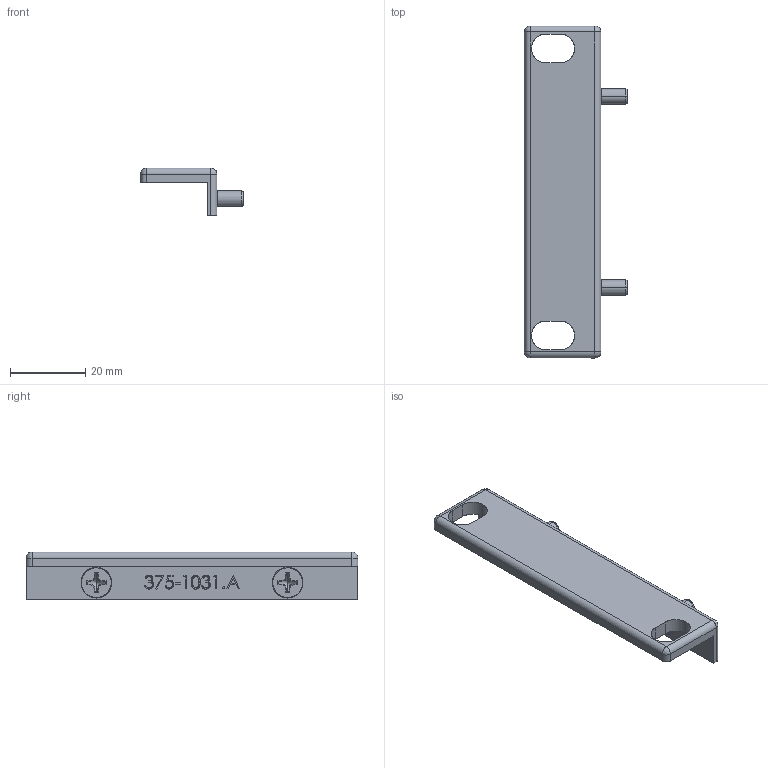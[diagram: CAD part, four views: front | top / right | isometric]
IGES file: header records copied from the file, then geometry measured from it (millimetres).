
Start section: SolidWorks IGES file using analytic representation for surfaces
Global section: file name: C:\Users\Mike\Dropbox\Mechanical Engr\Development Projects (P)\Accessories\Customer Model Development\1401-RM-2, part 1 of 3.IGS; native system: SolidWorks 2014; preprocessor: SolidWorks 2014; author: Mike; date: 150929.213121; units: inch
Bounding box: 27.42 x 88.14 x 12.7 mm (x, y, z)
Surface area: 6296.2 mm2 (no closed solid volume)
Topology: 0 solids, 0 shells, 208 faces, 2522 edges, 2514 vertices
Faces by surface type: bspline 156, revolution 52
